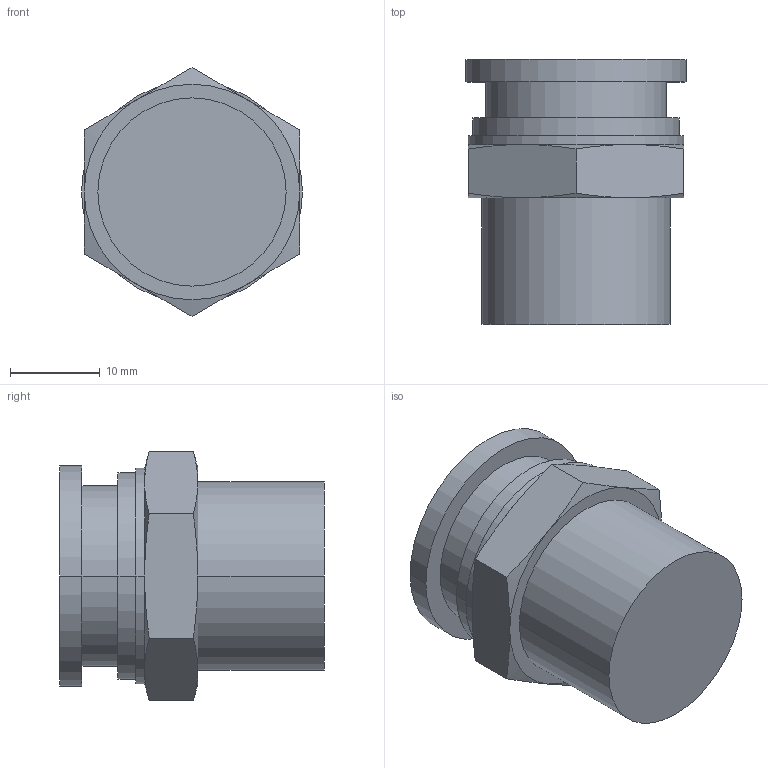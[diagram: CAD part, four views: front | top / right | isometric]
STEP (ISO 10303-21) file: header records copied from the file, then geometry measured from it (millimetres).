
FILE_DESCRIPTION( ( '' ), '1' );
FILE_NAME( 'G:/SMC狟婥/KQB2H16-04S.stp', '2023-03-07T02:30:07', ( '' ), ( '' ), ' ', ' ', ' ' );
FILE_SCHEMA( ( 'CONFIG_CONTROL_DESIGN' ) );
Length unit declared in the file: millimetre
Products named in the file (1): 1
Bounding box: 24.6 x 29.5 x 27.71 mm (x, y, z)
Volume: 7351.6 mm3; surface area: 4418.7 mm2
Topology: 1 solids, 1 shells, 37 faces, 76 edges, 46 vertices
Faces by surface type: plane 13, cylinder 12, cone 12
Entity records: 992 total; most frequent: CARTESIAN_POINT 208, DIRECTION 162, ORIENTED_EDGE 152, EDGE_CURVE 76, AXIS2_PLACEMENT_3D 72, VERTEX_POINT 46, EDGE_LOOP 42, ADVANCED_FACE 37
